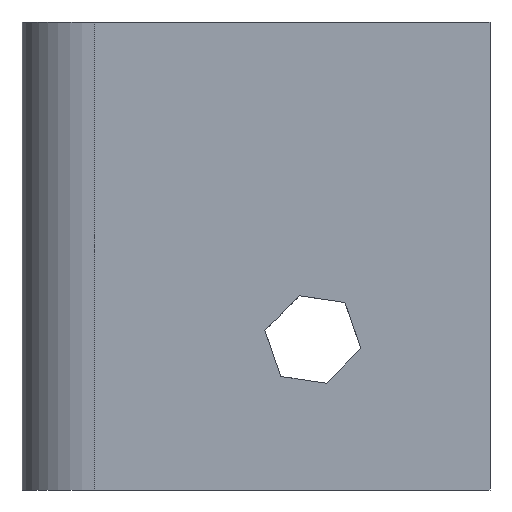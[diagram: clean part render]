
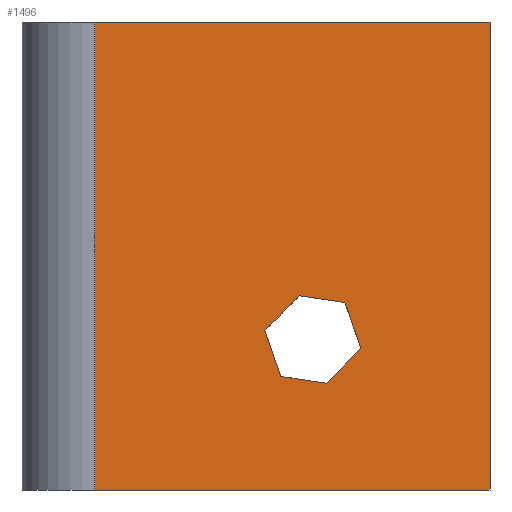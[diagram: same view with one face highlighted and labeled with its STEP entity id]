
A CAD part, front view. The second image highlights one B-rep face of the part: STEP entity #1496.
In plain terms, the highlighted planar face has unit normal (0, -1, 0).
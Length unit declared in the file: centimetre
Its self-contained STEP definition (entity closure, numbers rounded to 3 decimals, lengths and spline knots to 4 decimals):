
#24 = VERTEX_POINT ( 'NONE', #1255 ) ;
#47 = VERTEX_POINT ( 'NONE', #443 ) ;
#63 = ORIENTED_EDGE ( 'NONE', *, *, #1776, .T. ) ;
#74 = AXIS2_PLACEMENT_3D ( 'NONE', #477, #1151, #315 ) ;
#98 = LINE ( 'NONE', #1381, #861 ) ;
#104 = EDGE_CURVE ( 'NONE', #1658, #2001, #1594, .T. ) ;
#120 = VECTOR ( 'NONE', #169, 100. ) ;
#169 = DIRECTION ( 'NONE',  ( -0.989, 0., 0.148 ) ) ;
#175 = EDGE_CURVE ( 'NONE', #24, #47, #984, .T. ) ;
#270 = DIRECTION ( 'NONE',  ( 0.327, 0., -0.945 ) ) ;
#296 = EDGE_CURVE ( 'NONE', #1680, #1792, #645, .T. ) ;
#315 = DIRECTION ( 'NONE',  ( 0., 0., 1. ) ) ;
#325 = CARTESIAN_POINT ( 'NONE',  ( 592.6479, 0., 415.1731 ) ) ;
#346 = VECTOR ( 'NONE', #350, 100. ) ;
#350 = DIRECTION ( 'NONE',  ( -0.707, 0., -0.707 ) ) ;
#375 = CARTESIAN_POINT ( 'NONE',  ( 724.2624, 0., 301.7865 ) ) ;
#392 = VECTOR ( 'NONE', #1620, 100. ) ;
#443 = CARTESIAN_POINT ( 'NONE',  ( 592.6479, 0., 415.1731 ) ) ;
#477 = CARTESIAN_POINT ( 'NONE',  ( 0., 0., 1000. ) ) ;
#570 = CARTESIAN_POINT ( 'NONE',  ( 155.785, 0., 1000. ) ) ;
#608 = CARTESIAN_POINT ( 'NONE',  ( 155.785, 0., 1000. ) ) ;
#636 = CARTESIAN_POINT ( 'NONE',  ( 690.0751, 0., 400.6236 ) ) ;
#637 = EDGE_CURVE ( 'NONE', #2001, #1680, #1805, .T. ) ;
#645 = LINE ( 'NONE', #976, #120 ) ;
#657 = ORIENTED_EDGE ( 'NONE', *, *, #1974, .F. ) ;
#674 = VERTEX_POINT ( 'NONE', #570 ) ;
#682 = VECTOR ( 'NONE', #974, 100. ) ;
#690 = CARTESIAN_POINT ( 'NONE',  ( 650.4987, 0., 228.0228 ) ) ;
#735 = VECTOR ( 'NONE', #270, 100. ) ;
#746 = EDGE_CURVE ( 'NONE', #674, #749, #2040, .T. ) ;
#749 = VERTEX_POINT ( 'NONE', #1704 ) ;
#751 = DIRECTION ( 'NONE',  ( 1., 0., 0. ) ) ;
#783 = DIRECTION ( 'NONE',  ( 1., 0., 0. ) ) ;
#789 = LINE ( 'NONE', #1966, #1065 ) ;
#826 = DIRECTION ( 'NONE',  ( 0., 0., -1. ) ) ;
#861 = VECTOR ( 'NONE', #751, 100. ) ;
#890 = ORIENTED_EDGE ( 'NONE', *, *, #1813, .T. ) ;
#935 = EDGE_CURVE ( 'NONE', #47, #1658, #1135, .T. ) ;
#964 = FACE_OUTER_BOUND ( 'NONE', #2101, .T. ) ;
#974 = DIRECTION ( 'NONE',  ( 0.989, 0., -0.148 ) ) ;
#976 = CARTESIAN_POINT ( 'NONE',  ( 650.4987, 0., 228.0228 ) ) ;
#984 = LINE ( 'NONE', #1969, #392 ) ;
#1015 = VECTOR ( 'NONE', #1093, 100. ) ;
#1039 = EDGE_CURVE ( 'NONE', #1792, #24, #1389, .T. ) ;
#1064 = CARTESIAN_POINT ( 'NONE',  ( 0., 0., 1000. ) ) ;
#1065 = VECTOR ( 'NONE', #826, 100. ) ;
#1093 = DIRECTION ( 'NONE',  ( 0., 0., -1. ) ) ;
#1123 = FACE_BOUND ( 'NONE', #1226, .T. ) ;
#1135 = LINE ( 'NONE', #325, #682 ) ;
#1151 = DIRECTION ( 'NONE',  ( 0., 1., 0. ) ) ;
#1166 = ORIENTED_EDGE ( 'NONE', *, *, #637, .T. ) ;
#1176 = VERTEX_POINT ( 'NONE', #1410 ) ;
#1193 = ORIENTED_EDGE ( 'NONE', *, *, #746, .F. ) ;
#1200 = CARTESIAN_POINT ( 'NONE',  ( 724.2624, 0., 301.7865 ) ) ;
#1222 = ORIENTED_EDGE ( 'NONE', *, *, #1039, .T. ) ;
#1226 = EDGE_LOOP ( 'NONE', ( #1328, #1497, #1166, #1502, #1222, #1445 ) ) ;
#1228 = DIRECTION ( 'NONE',  ( -0.327, 0., 0.945 ) ) ;
#1255 = CARTESIAN_POINT ( 'NONE',  ( 518.8842, 0., 341.4094 ) ) ;
#1302 = PLANE ( 'NONE',  #74 ) ;
#1328 = ORIENTED_EDGE ( 'NONE', *, *, #935, .T. ) ;
#1342 = CARTESIAN_POINT ( 'NONE',  ( 690.0751, 0., 400.6236 ) ) ;
#1370 = VECTOR ( 'NONE', #783, 100. ) ;
#1381 = CARTESIAN_POINT ( 'NONE',  ( 0., 0., 0. ) ) ;
#1389 = LINE ( 'NONE', #1511, #1395 ) ;
#1395 = VECTOR ( 'NONE', #1228, 100. ) ;
#1410 = CARTESIAN_POINT ( 'NONE',  ( 1000., 0., 0. ) ) ;
#1445 = ORIENTED_EDGE ( 'NONE', *, *, #175, .T. ) ;
#1496 = ADVANCED_FACE ( 'NONE', ( #1123, #964 ), #1302, .F. ) ;
#1497 = ORIENTED_EDGE ( 'NONE', *, *, #104, .T. ) ;
#1502 = ORIENTED_EDGE ( 'NONE', *, *, #296, .T. ) ;
#1511 = CARTESIAN_POINT ( 'NONE',  ( 553.0716, 0., 242.5723 ) ) ;
#1551 = CARTESIAN_POINT ( 'NONE',  ( 155.785, 0., 0. ) ) ;
#1594 = LINE ( 'NONE', #636, #735 ) ;
#1620 = DIRECTION ( 'NONE',  ( 0.707, 0., 0.707 ) ) ;
#1658 = VERTEX_POINT ( 'NONE', #1342 ) ;
#1680 = VERTEX_POINT ( 'NONE', #690 ) ;
#1704 = CARTESIAN_POINT ( 'NONE',  ( 1000., 0., 1000. ) ) ;
#1776 = EDGE_CURVE ( 'NONE', #674, #1807, #2049, .T. ) ;
#1792 = VERTEX_POINT ( 'NONE', #2082 ) ;
#1805 = LINE ( 'NONE', #1200, #346 ) ;
#1807 = VERTEX_POINT ( 'NONE', #1551 ) ;
#1813 = EDGE_CURVE ( 'NONE', #1807, #1176, #98, .T. ) ;
#1966 = CARTESIAN_POINT ( 'NONE',  ( 1000., 0., 1000. ) ) ;
#1969 = CARTESIAN_POINT ( 'NONE',  ( 518.8842, 0., 341.4094 ) ) ;
#1974 = EDGE_CURVE ( 'NONE', #749, #1176, #789, .T. ) ;
#2001 = VERTEX_POINT ( 'NONE', #375 ) ;
#2040 = LINE ( 'NONE', #1064, #1370 ) ;
#2049 = LINE ( 'NONE', #608, #1015 ) ;
#2082 = CARTESIAN_POINT ( 'NONE',  ( 553.0716, 0., 242.5723 ) ) ;
#2101 = EDGE_LOOP ( 'NONE', ( #1193, #63, #890, #657 ) ) ;
